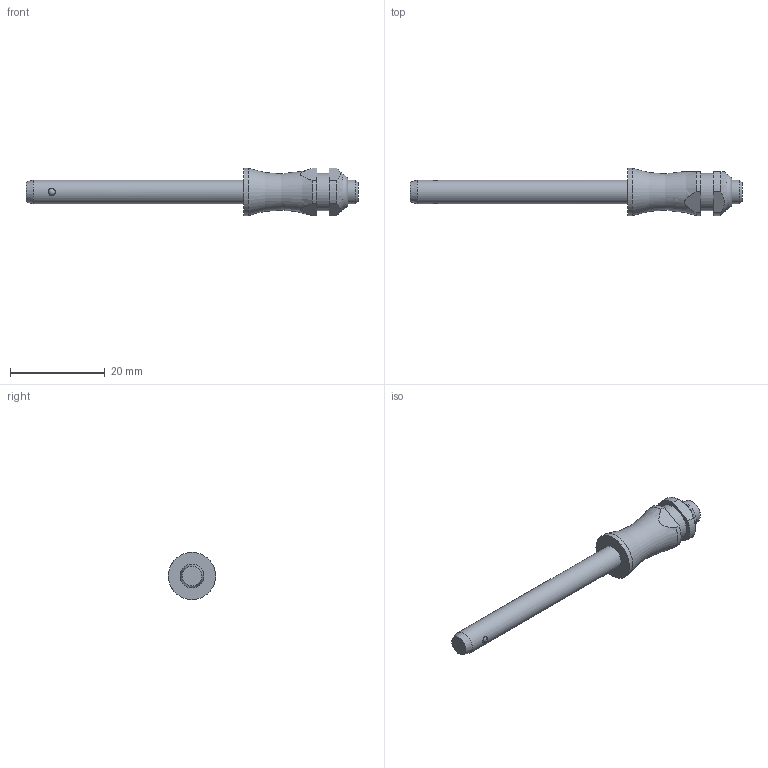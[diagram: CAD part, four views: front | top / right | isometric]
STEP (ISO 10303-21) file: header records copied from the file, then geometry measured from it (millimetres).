
FILE_DESCRIPTION( ( 'STEP AP203' ), '1' );
FILE_NAME( 'C:/Temp/Ganter_Step_05_03_2020/data/3_1/gn113_3/Stainless Steel-Ball lock pin GN 113.3-5-40 (activated).stp', '2020-03-12T08:18:11', ( 'License CC BY-ND 4.0' ), ( 'CADENAS' ), ' ', 'PARTsolutions', ' ' );
FILE_SCHEMA( ( 'CONFIG_CONTROL_DESIGN' ) );
Length unit declared in the file: millimetre
Products named in the file (1): _Stainless Steel-Ball lock pin GN 113.3-5-40 (activated)
Bounding box: 70.15 x 10 x 10 mm (x, y, z)
Volume: 2196.5 mm3; surface area: 1517.8 mm2
Topology: 1 solids, 1 shells, 31 faces, 73 edges, 46 vertices
Faces by surface type: plane 12, cylinder 12, cone 3, torus 2, sphere 2
Full cylindrical faces by diameter (mm): 1.5 x2, 5 x2, 7.9 x1, 10 x1
Entity records: 954 total; most frequent: CARTESIAN_POINT 290, DIRECTION 134, ORIENTED_EDGE 104, AXIS2_PLACEMENT_3D 58, EDGE_CURVE 52, EDGE_LOOP 48, VERTEX_POINT 40, FACE_OUTER_BOUND 39
